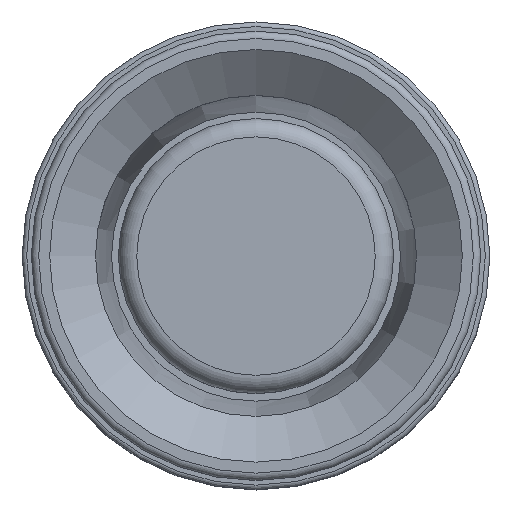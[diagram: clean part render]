
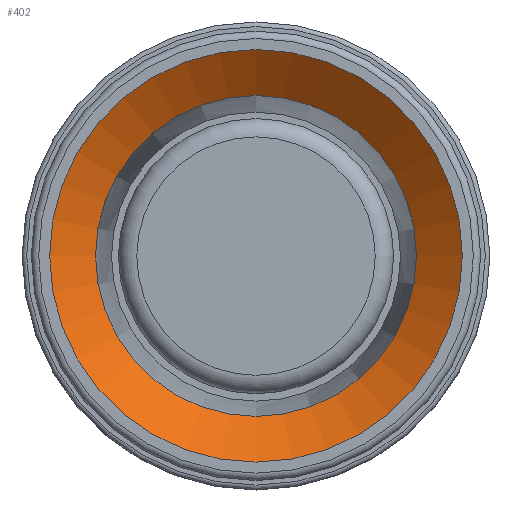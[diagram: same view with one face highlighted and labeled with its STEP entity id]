
A CAD part, top view. The second image highlights one B-rep face of the part: STEP entity #402.
In plain terms, the highlighted conical face has half-angle 52.765 degrees and reference radius 22.5 mm.
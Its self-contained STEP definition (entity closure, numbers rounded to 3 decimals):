
#402=ADVANCED_FACE('',(#658,#659),#660,.F.);
#658=FACE_BOUND('',#1011,.T.);
#659=FACE_OUTER_BOUND('',#1012,.T.);
#660=CONICAL_SURFACE('',#1013,22.5,0.921);
#1011=EDGE_LOOP('',(#1675));
#1012=EDGE_LOOP('',(#1676));
#1013=AXIS2_PLACEMENT_3D('',#1677,#1678,#1679);
#1675=ORIENTED_EDGE('',*,*,#2239,.F.);
#1676=ORIENTED_EDGE('',*,*,#2240,.T.);
#1677=CARTESIAN_POINT('',(0.0,0.0,0.0));
#1678=DIRECTION('',(0.0,0.,-1.0));
#1679=DIRECTION('',(0.0,1.0,0.));
#2239=EDGE_CURVE('',#2590,#2590,#2591,.T.);
#2240=EDGE_CURVE('',#2592,#2592,#2593,.T.);
#2590=VERTEX_POINT('',#3174);
#2591=CIRCLE('',#3175,17.5);
#2592=VERTEX_POINT('',#3176);
#2593=CIRCLE('',#3177,22.5);
#3174=CARTESIAN_POINT('',(0.0,17.5,3.8));
#3175=AXIS2_PLACEMENT_3D('',#3921,#3922,#3923);
#3176=CARTESIAN_POINT('',(0.0,22.5,0.));
#3177=AXIS2_PLACEMENT_3D('',#3924,#3925,#3926);
#3921=CARTESIAN_POINT('',(0.0,0.0,3.8));
#3922=DIRECTION('',(0.0,0.,-1.0));
#3923=DIRECTION('',(0.0,1.0,0.));
#3924=CARTESIAN_POINT('',(0.0,0.0,0.0));
#3925=DIRECTION('',(0.0,0.,-1.0));
#3926=DIRECTION('',(0.0,1.0,0.));
